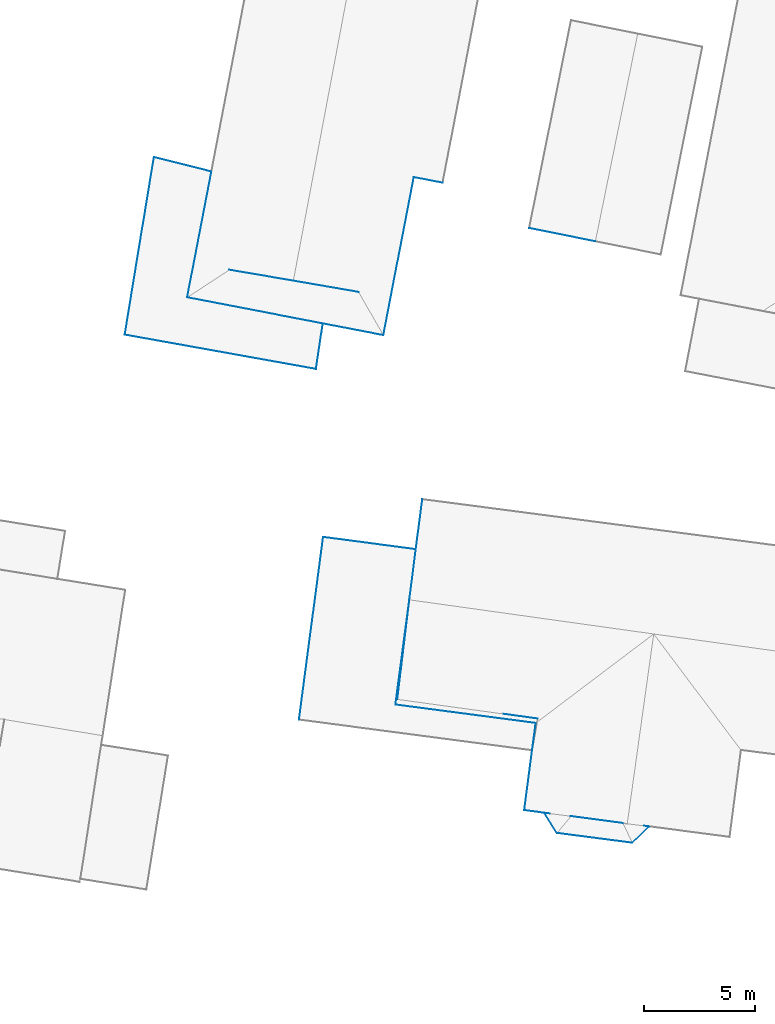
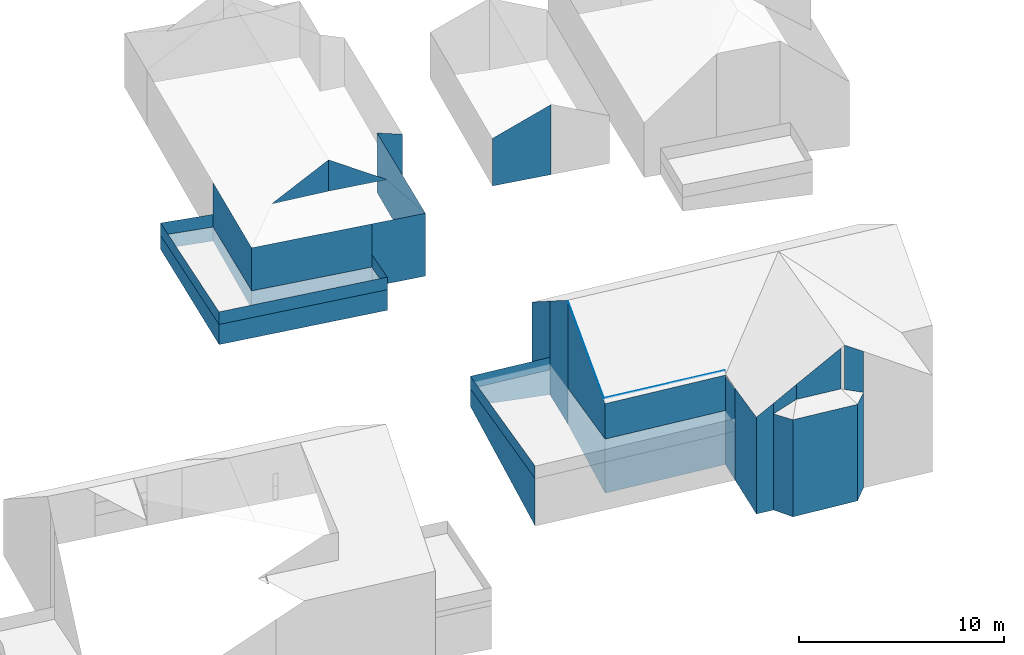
# Not in any storey, part 29 of 57: 47 walls.
"""IFC2X3 building model written with IfcOpenShell, lengths in metres."""

from ifc_helpers import new_model, entity, si_unit, converted_unit, origin, place, context, subcontext, project, spatial, face_set, surface_model, element, save


model = new_model("IFC2X3")

# Units and contexts
model_context = context("Model", 3, precision=1e-05, world=origin())
body_context = subcontext(model_context, "Body", "Model", "MODEL_VIEW")
ifc_project = project(units=[converted_unit("PLANEANGLEUNIT", "DEGREE", entity("IfcRatioMeasure", 0.0174532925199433), si_unit("PLANEANGLEUNIT", "RADIAN"), dimensions=[0, 0, 0, 0, 0, 0, 0]), si_unit("AREAUNIT", "SQUARE_METRE"), si_unit("LENGTHUNIT", "METRE")], contexts=[model_context])

# Site, building
site_placement = place(None, origin())
site = spatial("IfcSite", under=ifc_project, at=site_placement, Name="_site", CompositionType="ELEMENT")
building_1_placement = place(site_placement, origin())
building_1 = spatial("IfcBuilding", under=site, at=building_1_placement, Name="_building", CompositionType="ELEMENT")

# Walls
wall_1_placement = place(building_1_placement, origin())
element("IfcWall", 1, at=wall_1_placement, inside=building_1, Name="Wall", context=body_context, shape_type="SurfaceModel", body=[
    surface_model("IfcFaceBasedSurfaceModel", [(227.5, 92.046, 112.511), (233.794, 91.179, 112.486), (233.794, 91.179, 112.466), (227.5, 92.046, 112.478)], [face_set([[[0, 1, 2, 3]]])]),
])
wall_2_placement = place(building_1_placement, origin())
element("IfcWall", 2, at=wall_2_placement, inside=building_1, Name="Wall", context=body_context, shape_type="SurfaceModel", body=[
    surface_model("IfcFaceBasedSurfaceModel", [(228.039, 96.515, 115.44), (227.5, 92.046, 112.511), (227.5, 92.046, 112.478)], [face_set([[[0, 1, 2]]])]),
])
wall_3_placement = place(building_1_placement, origin())
element("IfcWall", 3, at=wall_3_placement, inside=building_1, Name="Wall", context=body_context, shape_type="SurfaceModel", body=[
    surface_model("IfcFaceBasedSurfaceModel", [(227.414, 91.808, 112.35), (228.039, 96.515, 115.44), (228.039, 96.515, 108.05), (227.414, 91.808, 107.018)], [face_set([[[0, 1, 2, 3]]])]),
])
wall_4_placement = place(building_1_placement, origin())
element("IfcWall", 4, at=wall_4_placement, inside=building_1, Name="Wall", context=body_context, shape_type="SurfaceModel", body=[
    surface_model("IfcFaceBasedSurfaceModel", [(233.709, 90.98, 112.35), (227.414, 91.808, 112.35), (227.414, 91.808, 107.018), (233.709, 90.98, 107.025)], [face_set([[[0, 1, 2, 3]]])]),
])
wall_5_placement = place(building_1_placement, origin())
element("IfcWall", 5, at=wall_5_placement, inside=building_1, Name="Wall", context=body_context, shape_type="SurfaceModel", body=[
    surface_model("IfcFaceBasedSurfaceModel", [(233.709, 90.98, 110.24), (233.55, 89.753, 110.25), (233.55, 89.753, 106.893), (233.709, 90.98, 107.025)], [face_set([[[0, 1, 2, 3]]])]),
])
wall_6_placement = place(building_1_placement, origin())
element("IfcWall", 6, at=wall_6_placement, inside=building_1, Name="Wall", context=body_context, shape_type="SurfaceModel", body=[
    surface_model("IfcFaceBasedSurfaceModel", [(227.414, 91.808, 110.24), (233.709, 90.98, 110.24), (233.709, 90.98, 107.025), (227.414, 91.808, 107.018)], [face_set([[[0, 1, 2, 3]]])]),
])
wall_7_placement = place(building_1_placement, origin())
element("IfcWall", 7, at=wall_7_placement, inside=building_1, Name="Wall", context=body_context, shape_type="SurfaceModel", body=[
    surface_model("IfcFaceBasedSurfaceModel", [(228.039, 96.515, 110.193), (227.414, 91.808, 110.24), (227.414, 91.808, 107.018), (228.039, 96.515, 108.05)], [face_set([[[0, 1, 2, 3]]])]),
])
wall_8_placement = place(building_1_placement, origin())
element("IfcWall", 8, at=wall_8_placement, inside=building_1, Name="Wall", context=body_context, shape_type="SurfaceModel", body=[
    surface_model("IfcFaceBasedSurfaceModel", [(228.328, 98.781, 110.17), (228.039, 96.515, 110.193), (228.039, 96.515, 108.05), (228.328, 98.781, 108.338)], [face_set([[[0, 1, 2, 3]]])]),
])
wall_9_placement = place(building_1_placement, origin())
element("IfcWall", 9, at=wall_9_placement, inside=building_1, Name="Wall", context=body_context, shape_type="SurfaceModel", body=[
    surface_model("IfcFaceBasedSurfaceModel", [(224.168, 99.329, 110.17), (228.328, 98.781, 110.17), (228.328, 98.781, 108.338), (224.168, 99.329, 108.772)], [face_set([[[0, 1, 2, 3]]])]),
])
wall_10_placement = place(building_1_placement, origin())
element("IfcWall", 10, at=wall_10_placement, inside=building_1, Name="Wall", context=body_context, shape_type="SurfaceModel", body=[
    surface_model("IfcFaceBasedSurfaceModel", [(223.086, 91.129, 110.17), (224.168, 99.329, 110.17), (224.168, 99.329, 108.772), (223.086, 91.129, 106.988)], [face_set([[[0, 1, 2, 3]]])]),
])
wall_11_placement = place(building_1_placement, origin())
element("IfcWall", 11, at=wall_11_placement, inside=building_1, Name="Wall", context=body_context, shape_type="SurfaceModel", body=[
    surface_model("IfcFaceBasedSurfaceModel", [(233.55, 89.753, 112.36), (233.709, 90.98, 112.35), (233.709, 90.98, 107.025), (233.55, 89.753, 106.893)], [face_set([[[0, 1, 2, 3]]])]),
])
wall_12_placement = place(building_1_placement, origin())
element("IfcWall", 12, at=wall_12_placement, inside=building_1, Name="Wall", context=body_context, shape_type="SurfaceModel", body=[
    surface_model("IfcFaceBasedSurfaceModel", [(224.168, 99.329, 109.81), (223.086, 91.129, 109.81), (223.086, 91.129, 110.56), (224.168, 99.329, 110.56)], [face_set([[[0, 1, 2, 3]]])]),
])
wall_13_placement = place(building_1_placement, origin())
element("IfcWall", 13, at=wall_13_placement, inside=building_1, Name="Wall", context=body_context, shape_type="SurfaceModel", body=[
    surface_model("IfcFaceBasedSurfaceModel", [(228.328, 98.781, 109.81), (224.168, 99.329, 109.81), (224.168, 99.329, 110.56), (228.328, 98.781, 110.56)], [face_set([[[0, 1, 2, 3]]])]),
])
wall_14_placement = place(building_1_placement, origin())
element("IfcWall", 14, at=wall_14_placement, inside=building_1, Name="Wall", context=body_context, shape_type="SurfaceModel", body=[
    surface_model("IfcFaceBasedSurfaceModel", [(224.168, 99.329, 109.81), (223.086, 91.129, 109.81), (223.086, 91.129, 110.56), (224.168, 99.329, 110.56)], [face_set([[[0, 1, 2, 3]]])]),
])
wall_15_placement = place(building_1_placement, origin())
element("IfcWall", 15, at=wall_15_placement, inside=building_1, Name="Wall", context=body_context, shape_type="SurfaceModel", body=[
    surface_model("IfcFaceBasedSurfaceModel", [(228.328, 98.781, 109.81), (224.168, 99.329, 109.81), (224.168, 99.329, 110.56), (228.328, 98.781, 110.56)], [face_set([[[0, 1, 2, 3]]])]),
])

# Building
building_2_placement = place(site_placement, origin())
building_2 = spatial("IfcBuilding", under=site, at=building_2_placement, Name="_building", CompositionType="ELEMENT")

# Walls
wall_16_placement = place(building_2_placement, origin())
element("IfcWall", 16, at=wall_16_placement, inside=building_2, Name="Wall", context=body_context, shape_type="SurfaceModel", body=[
    surface_model("IfcFaceBasedSurfaceModel", [(229.534, 115.233, 113.44), (228.239, 115.484, 113.82), (228.239, 115.484, 110.283), (229.534, 115.233, 110.276)], [face_set([[[0, 1, 2, 3]]])]),
])
wall_17_placement = place(building_2_placement, origin())
element("IfcWall", 17, at=wall_17_placement, inside=building_2, Name="Wall", context=body_context, shape_type="SurfaceModel", body=[
    surface_model("IfcFaceBasedSurfaceModel", [(218.066, 110.088, 113.82), (219.152, 115.735, 113.905), (219.152, 115.735, 110.419), (218.066, 110.088, 110.194)], [face_set([[[0, 1, 2, 3]]])]),
])
wall_18_placement = place(building_2_placement, origin())
element("IfcWall", 18, at=wall_18_placement, inside=building_2, Name="Wall", context=body_context, shape_type="SurfaceModel", body=[
    surface_model("IfcFaceBasedSurfaceModel", [(226.872, 108.391, 113.82), (224.153, 108.915, 113.82), (224.153, 108.915, 110.083), (226.872, 108.391, 110.079)], [face_set([[[0, 1, 2, 3]]])]),
])
wall_19_placement = place(building_2_placement, origin())
element("IfcWall", 19, at=wall_19_placement, inside=building_2, Name="Wall", context=body_context, shape_type="SurfaceModel", body=[
    surface_model("IfcFaceBasedSurfaceModel", [(225.757, 110.328, 115.07), (222.827, 110.835, 116.94), (222.827, 110.835, 115.07), (225.757, 110.328, 115.02)], [face_set([[[0, 1, 2, 3]]])]),
])
wall_20_placement = place(building_2_placement, origin())
element("IfcWall", 20, at=wall_20_placement, inside=building_2, Name="Wall", context=body_context, shape_type="SurfaceModel", body=[
    surface_model("IfcFaceBasedSurfaceModel", [(216.573, 116.387, 111.25), (219.152, 115.735, 111.25), (219.152, 115.735, 110.419), (216.573, 116.387, 110.433)], [face_set([[[0, 1, 2, 3]]])]),
])
wall_21_placement = place(building_2_placement, origin())
element("IfcWall", 21, at=wall_21_placement, inside=building_2, Name="Wall", context=body_context, shape_type="SurfaceModel", body=[
    surface_model("IfcFaceBasedSurfaceModel", [(218.066, 110.088, 111.25), (224.153, 108.915, 111.25), (224.153, 108.915, 110.083), (218.066, 110.088, 110.194)], [face_set([[[0, 1, 2, 3]]])]),
])
wall_22_placement = place(building_2_placement, origin())
element("IfcWall", 22, at=wall_22_placement, inside=building_2, Name="Wall", context=body_context, shape_type="SurfaceModel", body=[
    surface_model("IfcFaceBasedSurfaceModel", [(224.153, 108.915, 111.25), (223.845, 106.871, 111.25), (223.845, 106.871, 110.025), (224.153, 108.915, 110.083)], [face_set([[[0, 1, 2, 3]]])]),
])
wall_23_placement = place(building_2_placement, origin())
element("IfcWall", 23, at=wall_23_placement, inside=building_2, Name="Wall", context=body_context, shape_type="SurfaceModel", body=[
    surface_model("IfcFaceBasedSurfaceModel", [(228.239, 115.484, 113.82), (226.872, 108.391, 113.82), (226.872, 108.391, 110.079), (228.239, 115.484, 110.283)], [face_set([[[0, 1, 2, 3]]])]),
])
wall_24_placement = place(building_2_placement, origin())
element("IfcWall", 24, at=wall_24_placement, inside=building_2, Name="Wall", context=body_context, shape_type="SurfaceModel", body=[
    surface_model("IfcFaceBasedSurfaceModel", [(215.265, 108.413, 111.25), (216.573, 116.387, 111.25), (216.573, 116.387, 110.433), (215.265, 108.413, 110.047)], [face_set([[[0, 1, 2, 3]]])]),
])
wall_25_placement = place(building_2_placement, origin())
element("IfcWall", 25, at=wall_25_placement, inside=building_2, Name="Wall", context=body_context, shape_type="SurfaceModel", body=[
    surface_model("IfcFaceBasedSurfaceModel", [(219.152, 115.735, 111.25), (218.066, 110.088, 111.25), (218.066, 110.088, 110.194), (219.152, 115.735, 110.419)], [face_set([[[0, 1, 2, 3]]])]),
])
wall_26_placement = place(building_2_placement, origin())
element("IfcWall", 26, at=wall_26_placement, inside=building_2, Name="Wall", context=body_context, shape_type="SurfaceModel", body=[
    surface_model("IfcFaceBasedSurfaceModel", [(224.153, 108.915, 113.82), (218.066, 110.088, 113.82), (218.066, 110.088, 110.194), (224.153, 108.915, 110.083)], [face_set([[[0, 1, 2, 3]]])]),
])
wall_27_placement = place(building_2_placement, origin())
element("IfcWall", 27, at=wall_27_placement, inside=building_2, Name="Wall", context=body_context, shape_type="SurfaceModel", body=[
    surface_model("IfcFaceBasedSurfaceModel", [(223.845, 106.871, 111.25), (215.265, 108.413, 111.25), (215.265, 108.413, 110.047), (223.845, 106.871, 110.025)], [face_set([[[0, 1, 2, 3]]])]),
])
wall_28_placement = place(building_2_placement, origin())
element("IfcWall", 28, at=wall_28_placement, inside=building_2, Name="Wall", context=body_context, shape_type="SurfaceModel", body=[
    surface_model("IfcFaceBasedSurfaceModel", [(222.827, 110.835, 116.94), (219.956, 111.325, 115.07), (219.956, 111.325, 115.02), (222.827, 110.835, 115.07)], [face_set([[[0, 1, 2, 3]]])]),
])
wall_29_placement = place(building_2_placement, origin())
element("IfcWall", 29, at=wall_29_placement, inside=building_2, Name="Wall", context=body_context, shape_type="SurfaceModel", body=[
    surface_model("IfcFaceBasedSurfaceModel", [(215.265, 108.413, 111.25), (216.573, 116.387, 111.25), (216.573, 116.387, 112.0), (215.265, 108.413, 112.0)], [face_set([[[0, 1, 2, 3]]])]),
])
wall_30_placement = place(building_2_placement, origin())
element("IfcWall", 30, at=wall_30_placement, inside=building_2, Name="Wall", context=body_context, shape_type="SurfaceModel", body=[
    surface_model("IfcFaceBasedSurfaceModel", [(224.153, 108.915, 111.25), (223.845, 106.871, 111.25), (223.845, 106.871, 112.0), (224.153, 108.915, 112.0)], [face_set([[[0, 1, 2, 3]]])]),
])
wall_31_placement = place(building_2_placement, origin())
element("IfcWall", 31, at=wall_31_placement, inside=building_2, Name="Wall", context=body_context, shape_type="SurfaceModel", body=[
    surface_model("IfcFaceBasedSurfaceModel", [(216.573, 116.387, 111.25), (219.152, 115.735, 111.25), (219.152, 115.735, 112.0), (216.573, 116.387, 112.0)], [face_set([[[0, 1, 2, 3]]])]),
])
wall_32_placement = place(building_2_placement, origin())
element("IfcWall", 32, at=wall_32_placement, inside=building_2, Name="Wall", context=body_context, shape_type="SurfaceModel", body=[
    surface_model("IfcFaceBasedSurfaceModel", [(223.845, 106.871, 111.25), (215.265, 108.413, 111.25), (215.265, 108.413, 112.0), (223.845, 106.871, 112.0)], [face_set([[[0, 1, 2, 3]]])]),
])
wall_33_placement = place(building_2_placement, origin())
element("IfcWall", 33, at=wall_33_placement, inside=building_2, Name="Wall", context=body_context, shape_type="SurfaceModel", body=[
    surface_model("IfcFaceBasedSurfaceModel", [(216.573, 116.387, 111.25), (219.152, 115.735, 111.25), (219.152, 115.735, 112.0), (216.573, 116.387, 112.0)], [face_set([[[0, 1, 2, 3]]])]),
])
wall_34_placement = place(building_2_placement, origin())
element("IfcWall", 34, at=wall_34_placement, inside=building_2, Name="Wall", context=body_context, shape_type="SurfaceModel", body=[
    surface_model("IfcFaceBasedSurfaceModel", [(215.265, 108.413, 111.25), (216.573, 116.387, 111.25), (216.573, 116.387, 112.0), (215.265, 108.413, 112.0)], [face_set([[[0, 1, 2, 3]]])]),
])
wall_35_placement = place(building_2_placement, origin())
element("IfcWall", 35, at=wall_35_placement, inside=building_2, Name="Wall", context=body_context, shape_type="SurfaceModel", body=[
    surface_model("IfcFaceBasedSurfaceModel", [(224.153, 108.915, 111.25), (223.845, 106.871, 111.25), (223.845, 106.871, 112.0), (224.153, 108.915, 112.0)], [face_set([[[0, 1, 2, 3]]])]),
])
wall_36_placement = place(building_2_placement, origin())
element("IfcWall", 36, at=wall_36_placement, inside=building_2, Name="Wall", context=body_context, shape_type="SurfaceModel", body=[
    surface_model("IfcFaceBasedSurfaceModel", [(223.845, 106.871, 111.25), (215.265, 108.413, 111.25), (215.265, 108.413, 112.0), (223.845, 106.871, 112.0)], [face_set([[[0, 1, 2, 3]]])]),
])

# Building
building_3_placement = place(site_placement, origin())
building_3 = spatial("IfcBuilding", under=site, at=building_3_placement, Name="_building", CompositionType="ELEMENT")

# Walls
wall_37_placement = place(building_3_placement, origin())
element("IfcWall", 37, at=wall_37_placement, inside=building_3, Name="Wall", context=body_context, shape_type="SurfaceModel", body=[
    surface_model("IfcFaceBasedSurfaceModel", [(228.039, 96.515, 115.44), (228.328, 98.781, 113.91), (228.328, 98.781, 108.338), (228.039, 96.515, 108.05)], [face_set([[[0, 1, 2, 3]]])]),
])
wall_38_placement = place(building_3_placement, origin())
element("IfcWall", 38, at=wall_38_placement, inside=building_3, Name="Wall", context=body_context, shape_type="SurfaceModel", body=[
    surface_model("IfcFaceBasedSurfaceModel", [(238.046, 85.605, 112.35), (234.664, 86.045, 112.35), (234.664, 86.045, 106.566), (238.046, 85.605, 106.601)], [face_set([[[0, 1, 2, 3]]])]),
])
wall_39_placement = place(building_3_placement, origin())
element("IfcWall", 39, at=wall_39_placement, inside=building_3, Name="Wall", context=body_context, shape_type="SurfaceModel", body=[
    surface_model("IfcFaceBasedSurfaceModel", [(238.803, 86.338, 112.35), (238.046, 85.605, 112.35), (238.046, 85.605, 106.601), (238.803, 86.338, 106.667)], [face_set([[[0, 1, 2, 3]]])]),
])
wall_40_placement = place(building_3_placement, origin())
element("IfcWall", 40, at=wall_40_placement, inside=building_3, Name="Wall", context=body_context, shape_type="SurfaceModel", body=[
    surface_model("IfcFaceBasedSurfaceModel", [(234.664, 86.045, 112.35), (234.095, 86.949, 112.35), (234.095, 86.949, 106.625), (234.664, 86.045, 106.566)], [face_set([[[0, 1, 2, 3]]])]),
])
wall_41_placement = place(building_3_placement, origin())
element("IfcWall", 41, at=wall_41_placement, inside=building_3, Name="Wall", context=body_context, shape_type="SurfaceModel", body=[
    surface_model("IfcFaceBasedSurfaceModel", [(238.803, 86.338, 114.79), (237.816, 86.461, 115.44), (237.816, 86.461, 112.794), (238.803, 86.338, 112.35)], [face_set([[[0, 1, 2, 3]]])]),
])
wall_42_placement = place(building_3_placement, origin())
element("IfcWall", 42, at=wall_42_placement, inside=building_3, Name="Wall", context=body_context, shape_type="SurfaceModel", body=[
    surface_model("IfcFaceBasedSurfaceModel", [(228.328, 98.781, 113.91), (228.621, 101.025, 112.39), (228.621, 101.025, 108.623), (228.328, 98.781, 108.338)], [face_set([[[0, 1, 2, 3]]])]),
])
wall_43_placement = place(building_3_placement, origin())
element("IfcWall", 43, at=wall_43_placement, inside=building_3, Name="Wall", context=body_context, shape_type="SurfaceModel", body=[
    surface_model("IfcFaceBasedSurfaceModel", [(237.626, 86.486, 115.314), (235.292, 86.801, 113.77), (235.292, 86.801, 112.88), (237.626, 86.486, 112.88)], [face_set([[[0, 1, 2, 3]]])]),
])
wall_44_placement = place(building_3_placement, origin())
element("IfcWall", 44, at=wall_44_placement, inside=building_3, Name="Wall", context=body_context, shape_type="SurfaceModel", body=[
    surface_model("IfcFaceBasedSurfaceModel", [(233.197, 87.07, 112.39), (233.55, 89.753, 112.36), (233.55, 89.753, 106.893), (233.197, 87.07, 106.633)], [face_set([[[0, 1, 2, 3]]])]),
])
wall_45_placement = place(building_3_placement, origin())
element("IfcWall", 45, at=wall_45_placement, inside=building_3, Name="Wall", context=body_context, shape_type="SurfaceModel", body=[
    surface_model("IfcFaceBasedSurfaceModel", [(234.095, 86.949, 112.98), (233.197, 87.07, 112.39), (233.197, 87.07, 106.633), (234.095, 86.949, 106.625)], [face_set([[[0, 1, 2, 3]]])]),
])
wall_46_placement = place(building_3_placement, origin())
element("IfcWall", 46, at=wall_46_placement, inside=building_3, Name="Wall", context=body_context, shape_type="SurfaceModel", body=[
    surface_model("IfcFaceBasedSurfaceModel", [(235.292, 86.801, 113.77), (234.095, 86.949, 112.98), (234.095, 86.949, 112.35), (235.292, 86.801, 112.88)], [face_set([[[0, 1, 2, 3]]])]),
])

# Building
building_4_placement = place(site_placement, origin())
building_4 = spatial("IfcBuilding", under=site, at=building_4_placement, Name="_building", CompositionType="ELEMENT")

# Wall
wall_47_placement = place(building_4_placement, origin())
element("IfcWall", 47, at=wall_47_placement, inside=building_4, Name="Wall", context=body_context, shape_type="SurfaceModel", body=[
    surface_model("IfcFaceBasedSurfaceModel", [(236.386, 112.601, 114.42), (233.419, 113.201, 113.07), (233.419, 113.201, 110.234), (236.386, 112.601, 110.238)], [face_set([[[0, 1, 2, 3]]])]),
])

save(model, "model.ifc")
